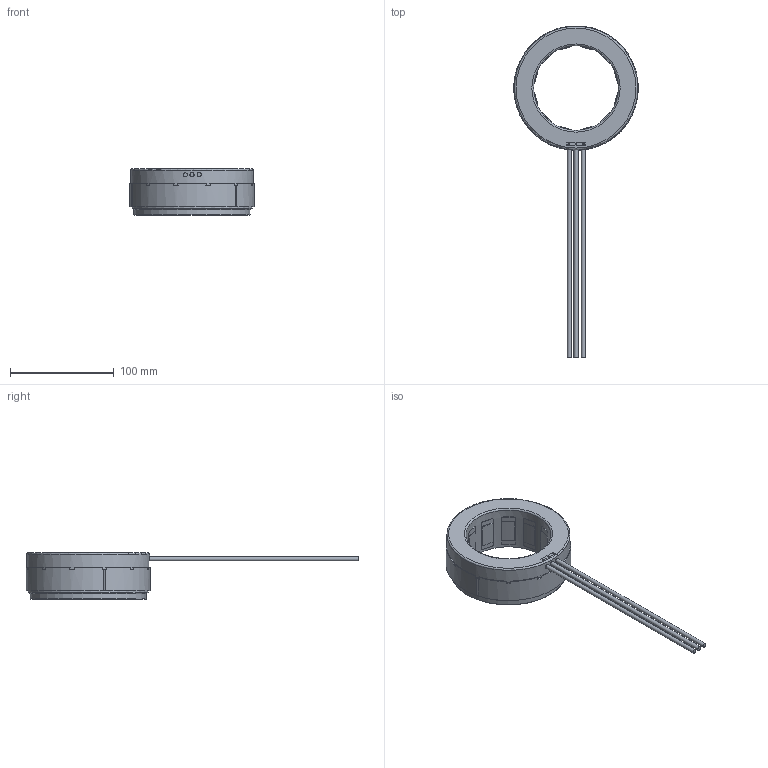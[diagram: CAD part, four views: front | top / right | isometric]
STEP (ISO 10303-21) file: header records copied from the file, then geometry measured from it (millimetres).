
FILE_DESCRIPTION(/* description */ (''),/* implementation_level */ '2;1');
FILE_NAME(/* name */ 'IA-D5BZA.stp',/* time_stamp */ '2023-12-27T18:25:12+09:00',/* author */ (''),/* organization */ (''),/* preprocessor_version */ 'ST-DEVELOPER v18.101',/* originating_system */ 'SIEMENS PLM Software NX 2011',/* authorisation */ '');
FILE_SCHEMA (('AUTOMOTIVE_DESIGN { 1 0 10303 214 3 1 1 1 }'));
Length unit declared in the file: millimetre
Products named in the file (1): IA-D5BZA
Bounding box: 119.62 x 319.8 x 44.7 mm (x, y, z)
Volume: 266362.9 mm3; surface area: 48164.7 mm2
Topology: 4 solids, 4 shells, 340 faces, 885 edges, 584 vertices
Faces by surface type: plane 222, cylinder 90, torus 18, extrusion 10
Full cylindrical faces by diameter (mm): 4 x3, 82 x1, 112.2 x1, 115.7 x1, 118.5 x1
Entity records: 11581 total; most frequent: CARTESIAN_POINT 3174, ORIENTED_EDGE 1734, DIRECTION 1709, EDGE_CURVE 867, AXIS2_PLACEMENT_3D 597, VERTEX_POINT 578, VECTOR 515, LINE 505
